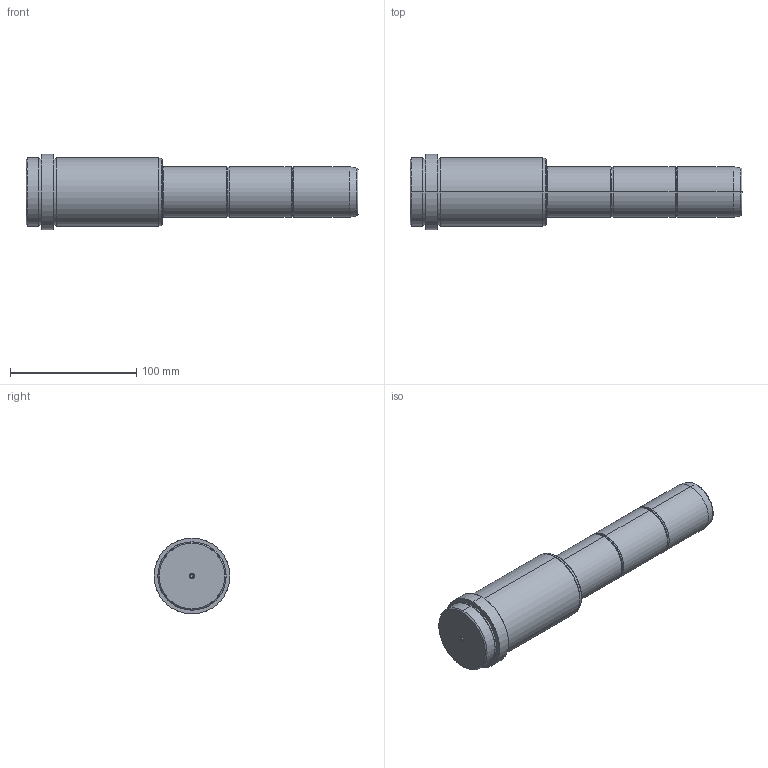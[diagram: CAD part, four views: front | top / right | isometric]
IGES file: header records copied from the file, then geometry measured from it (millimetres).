
Start section: SolidWorks IGES FILE using analytic representation for surfaces
Global section: file name: D:\zzzzz\Delta\D03\40\D03 - 40x96x155.IGS; native system: SolidWorks 2004 by SolidWorks Corporation; preprocessor: Version 5.3; author: Hkn; date: 080327.161135; units: millimetre
Bounding box: 263 x 60 x 60 mm (x, y, z)
Surface area: 43621.6 mm2 (no closed solid volume)
Topology: 0 solids, 0 shells, 56 faces, 1152 edges, 1148 vertices
Faces by surface type: revolution 36, bspline 20
